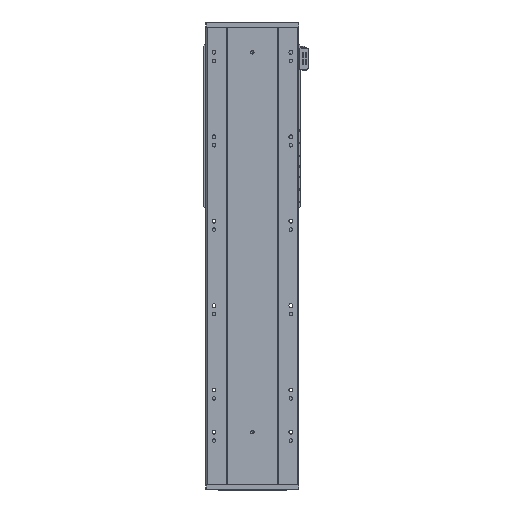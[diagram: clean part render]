
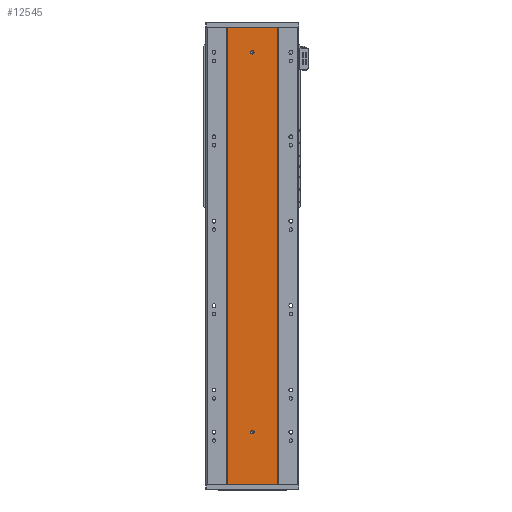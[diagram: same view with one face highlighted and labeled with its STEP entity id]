
A CAD part, front view. The second image highlights one B-rep face of the part: STEP entity #12545.
In plain terms, the highlighted planar face has unit normal (0, -1, 0).
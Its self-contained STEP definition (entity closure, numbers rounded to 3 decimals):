
#171 = EDGE_LOOP ( 'NONE', ( #4619, #18723 ) ) ;
#1299 = CIRCLE ( 'NONE', #28050, 4. ) ;
#1434 = VERTEX_POINT ( 'NONE', #52408 ) ;
#1573 = DIRECTION ( 'NONE',  ( 0., -1., 0. ) ) ;
#1864 = EDGE_LOOP ( 'NONE', ( #9838, #36087, #35728, #55795 ) ) ;
#2454 = EDGE_CURVE ( 'NONE', #34307, #54549, #41619, .T. ) ;
#2502 = CARTESIAN_POINT ( 'NONE',  ( 0., 0., 125. ) ) ;
#2824 = AXIS2_PLACEMENT_3D ( 'NONE', #25300, #57270, #34302 ) ;
#3603 = DIRECTION ( 'NONE',  ( 0., 0., 1. ) ) ;
#3813 = AXIS2_PLACEMENT_3D ( 'NONE', #27610, #37164, #23179 ) ;
#4619 = ORIENTED_EDGE ( 'NONE', *, *, #15895, .F. ) ;
#7135 = DIRECTION ( 'NONE',  ( 0., 0., -1. ) ) ;
#9838 = ORIENTED_EDGE ( 'NONE', *, *, #38287, .T. ) ;
#9902 = CARTESIAN_POINT ( 'NONE',  ( 60., 0., 0. ) ) ;
#10396 = CARTESIAN_POINT ( 'NONE',  ( -60., 0., 1085. ) ) ;
#10802 = CARTESIAN_POINT ( 'NONE',  ( 0., 0., 125. ) ) ;
#11753 = VECTOR ( 'NONE', #14015, 1000. ) ;
#12029 = LINE ( 'NONE', #53769, #25608 ) ;
#12545 = ADVANCED_FACE ( 'NONE', ( #37608, #41166, #16881 ), #58193, .F. ) ;
#13302 = AXIS2_PLACEMENT_3D ( 'NONE', #50004, #22023, #3603 ) ;
#13833 = CARTESIAN_POINT ( 'NONE',  ( -60., 0., 1085. ) ) ;
#14015 = DIRECTION ( 'NONE',  ( 1., 0., 0. ) ) ;
#14552 = CIRCLE ( 'NONE', #2824, 4. ) ;
#15211 = DIRECTION ( 'NONE',  ( 0., 0., -1. ) ) ;
#15895 = EDGE_CURVE ( 'NONE', #18910, #15912, #57869, .T. ) ;
#15912 = VERTEX_POINT ( 'NONE', #46205 ) ;
#16774 = VERTEX_POINT ( 'NONE', #18077 ) ;
#16881 = FACE_OUTER_BOUND ( 'NONE', #1864, .T. ) ;
#18077 = CARTESIAN_POINT ( 'NONE',  ( 0., 0., 121. ) ) ;
#18723 = ORIENTED_EDGE ( 'NONE', *, *, #38908, .F. ) ;
#18910 = VERTEX_POINT ( 'NONE', #33561 ) ;
#21178 = DIRECTION ( 'NONE',  ( 1., 0., 0. ) ) ;
#22023 = DIRECTION ( 'NONE',  ( 0., 1., 0. ) ) ;
#22906 = EDGE_CURVE ( 'NONE', #34307, #40478, #33811, .T. ) ;
#23179 = DIRECTION ( 'NONE',  ( 0., 0., -1. ) ) ;
#23787 = DIRECTION ( 'NONE',  ( 0., 0., -1. ) ) ;
#25300 = CARTESIAN_POINT ( 'NONE',  ( 0., 0., 1025. ) ) ;
#25341 = EDGE_CURVE ( 'NONE', #1434, #16774, #1299, .T. ) ;
#25608 = VECTOR ( 'NONE', #26357, 1000. ) ;
#25621 = EDGE_CURVE ( 'NONE', #40478, #43687, #12029, .T. ) ;
#26351 = EDGE_LOOP ( 'NONE', ( #41805, #28023 ) ) ;
#26357 = DIRECTION ( 'NONE',  ( 0., 0., -1. ) ) ;
#26574 = VECTOR ( 'NONE', #15211, 1000. ) ;
#27610 = CARTESIAN_POINT ( 'NONE',  ( 0., 0., 1025. ) ) ;
#28023 = ORIENTED_EDGE ( 'NONE', *, *, #25341, .F. ) ;
#28050 = AXIS2_PLACEMENT_3D ( 'NONE', #10802, #1573, #23787 ) ;
#28399 = CARTESIAN_POINT ( 'NONE',  ( 60., 0., 1085. ) ) ;
#30425 = CARTESIAN_POINT ( 'NONE',  ( -60., 0., 1085. ) ) ;
#33561 = CARTESIAN_POINT ( 'NONE',  ( 0., 0., 1021. ) ) ;
#33811 = LINE ( 'NONE', #30425, #53838 ) ;
#34302 = DIRECTION ( 'NONE',  ( 0., 0., -1. ) ) ;
#34307 = VERTEX_POINT ( 'NONE', #13833 ) ;
#35728 = ORIENTED_EDGE ( 'NONE', *, *, #22906, .F. ) ;
#36087 = ORIENTED_EDGE ( 'NONE', *, *, #25621, .F. ) ;
#37164 = DIRECTION ( 'NONE',  ( 0., -1., 0. ) ) ;
#37608 = FACE_BOUND ( 'NONE', #171, .T. ) ;
#38287 = EDGE_CURVE ( 'NONE', #54549, #43687, #49650, .T. ) ;
#38908 = EDGE_CURVE ( 'NONE', #15912, #18910, #14552, .T. ) ;
#40478 = VERTEX_POINT ( 'NONE', #28399 ) ;
#40482 = AXIS2_PLACEMENT_3D ( 'NONE', #2502, #53133, #7135 ) ;
#40994 = CARTESIAN_POINT ( 'NONE',  ( -60., 0., 0. ) ) ;
#41166 = FACE_BOUND ( 'NONE', #26351, .T. ) ;
#41619 = LINE ( 'NONE', #10396, #26574 ) ;
#41805 = ORIENTED_EDGE ( 'NONE', *, *, #51268, .F. ) ;
#43687 = VERTEX_POINT ( 'NONE', #9902 ) ;
#44331 = CIRCLE ( 'NONE', #40482, 4. ) ;
#46205 = CARTESIAN_POINT ( 'NONE',  ( 0., 0., 1029. ) ) ;
#49650 = LINE ( 'NONE', #40994, #11753 ) ;
#50004 = CARTESIAN_POINT ( 'NONE',  ( -60., 0., 1085. ) ) ;
#51268 = EDGE_CURVE ( 'NONE', #16774, #1434, #44331, .T. ) ;
#51461 = CARTESIAN_POINT ( 'NONE',  ( -60., 0., 0. ) ) ;
#52408 = CARTESIAN_POINT ( 'NONE',  ( 0., 0., 129. ) ) ;
#53133 = DIRECTION ( 'NONE',  ( 0., -1., 0. ) ) ;
#53769 = CARTESIAN_POINT ( 'NONE',  ( 60., 0., 1085. ) ) ;
#53838 = VECTOR ( 'NONE', #21178, 1000. ) ;
#54549 = VERTEX_POINT ( 'NONE', #51461 ) ;
#55795 = ORIENTED_EDGE ( 'NONE', *, *, #2454, .T. ) ;
#57270 = DIRECTION ( 'NONE',  ( 0., -1., 0. ) ) ;
#57869 = CIRCLE ( 'NONE', #3813, 4. ) ;
#58193 = PLANE ( 'NONE',  #13302 ) ;
